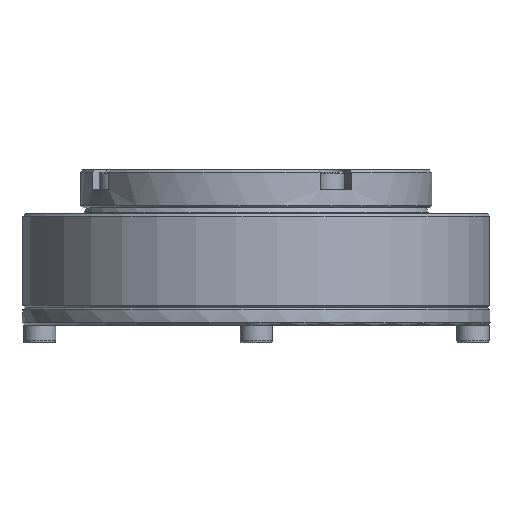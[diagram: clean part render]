
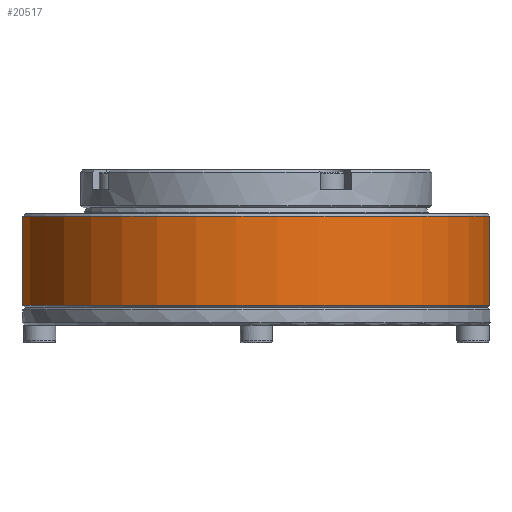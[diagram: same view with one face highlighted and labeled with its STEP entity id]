
A CAD part, front view. The second image highlights one B-rep face of the part: STEP entity #20517.
In plain terms, the highlighted cylindrical face has radius 40 mm (diameter 80 mm), a full revolution.
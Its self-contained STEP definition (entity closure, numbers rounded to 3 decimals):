
#1231 = EDGE_LOOP ( 'NONE', ( #4762 ) ) ;
#1350 = AXIS2_PLACEMENT_3D ( 'NONE', #12765, #17965, #21385 ) ;
#1367 = DIRECTION ( 'NONE',  ( 0., 0., 1. ) ) ;
#2398 = CARTESIAN_POINT ( 'NONE',  ( 10.353, -38.637, -23.2 ) ) ;
#3145 = CIRCLE ( 'NONE', #12531, 40. ) ;
#3933 = EDGE_CURVE ( 'NONE', #22539, #22539, #9569, .T. ) ;
#4282 = CARTESIAN_POINT ( 'NONE',  ( 10.353, -38.637, -8. ) ) ;
#4762 = ORIENTED_EDGE ( 'NONE', *, *, #14862, .T. ) ;
#6799 = FACE_OUTER_BOUND ( 'NONE', #1231, .T. ) ;
#7897 = CYLINDRICAL_SURFACE ( 'NONE', #1350, 40. ) ;
#9108 = VERTEX_POINT ( 'NONE', #2398 ) ;
#9569 = CIRCLE ( 'NONE', #18576, 40. ) ;
#9622 = DIRECTION ( 'NONE',  ( 0., 0., -1. ) ) ;
#12531 = AXIS2_PLACEMENT_3D ( 'NONE', #15157, #1367, #22163 ) ;
#12765 = CARTESIAN_POINT ( 'NONE',  ( 0., 0., -23.6 ) ) ;
#14862 = EDGE_CURVE ( 'NONE', #9108, #9108, #3145, .T. ) ;
#15157 = CARTESIAN_POINT ( 'NONE',  ( 0., 0., -23.2 ) ) ;
#15702 = EDGE_LOOP ( 'NONE', ( #18886 ) ) ;
#16942 = FACE_OUTER_BOUND ( 'NONE', #15702, .T. ) ;
#17965 = DIRECTION ( 'NONE',  ( 0., 0., -1. ) ) ;
#18204 = CARTESIAN_POINT ( 'NONE',  ( 0., 0., -8. ) ) ;
#18576 = AXIS2_PLACEMENT_3D ( 'NONE', #18204, #9622, #21859 ) ;
#18886 = ORIENTED_EDGE ( 'NONE', *, *, #3933, .T. ) ;
#20517 = ADVANCED_FACE ( 'NONE', ( #16942, #6799 ), #7897, .T. ) ;
#21385 = DIRECTION ( 'NONE',  ( 0.259, -0.966, 0. ) ) ;
#21859 = DIRECTION ( 'NONE',  ( 0.259, -0.966, 0. ) ) ;
#22163 = DIRECTION ( 'NONE',  ( 0.259, -0.966, 0. ) ) ;
#22539 = VERTEX_POINT ( 'NONE', #4282 ) ;
